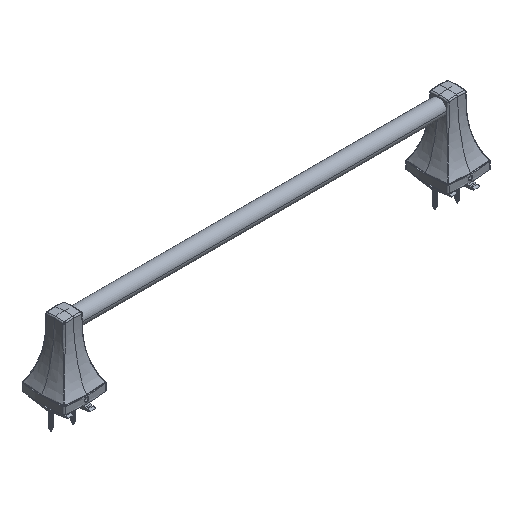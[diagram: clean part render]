
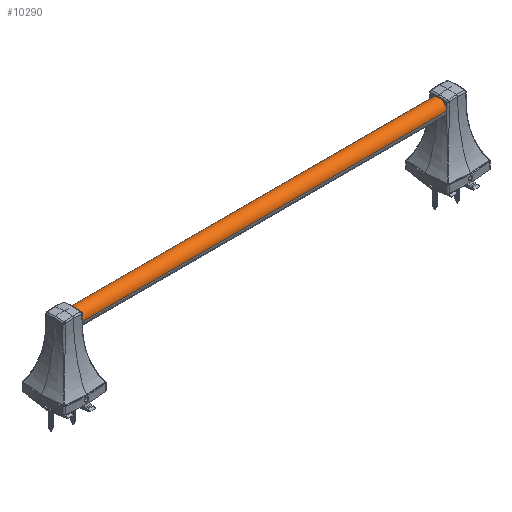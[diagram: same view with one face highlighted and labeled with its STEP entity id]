
A CAD part, isometric view. The second image highlights one B-rep face of the part: STEP entity #10290.
In plain terms, the highlighted cylindrical face has radius 9.5 mm (diameter 19 mm), a partial arc.
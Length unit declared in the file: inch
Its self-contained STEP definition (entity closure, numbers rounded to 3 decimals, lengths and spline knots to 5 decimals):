
#1421 = DIRECTION ( 'NONE',  ( 1., 0., 0. ) ) ;
#2076 = CARTESIAN_POINT ( 'NONE',  ( -9.27165, 0., 2.40157 ) ) ;
#2800 = VERTEX_POINT ( 'NONE', #47905 ) ;
#7485 = CARTESIAN_POINT ( 'NONE',  ( 9.27165, 0.37402, 2.40157 ) ) ;
#8583 = CIRCLE ( 'NONE', #18173, 0.37402 ) ;
#9105 = DIRECTION ( 'NONE',  ( 1., 0., 0. ) ) ;
#10290 = ADVANCED_FACE ( 'NONE', ( #39455 ), #59772, .T. ) ;
#10363 = VECTOR ( 'NONE', #54653, 39.37008 ) ;
#10773 = VERTEX_POINT ( 'NONE', #47982 ) ;
#10811 = ORIENTED_EDGE ( 'NONE', *, *, #55590, .T. ) ;
#11909 = VECTOR ( 'NONE', #63161, 39.37008 ) ;
#14793 = EDGE_CURVE ( 'NONE', #2800, #45400, #8583, .T. ) ;
#18173 = AXIS2_PLACEMENT_3D ( 'NONE', #2076, #1421, #22778 ) ;
#22494 = EDGE_CURVE ( 'NONE', #55734, #10773, #51644, .T. ) ;
#22555 = ORIENTED_EDGE ( 'NONE', *, *, #42084, .T. ) ;
#22778 = DIRECTION ( 'NONE',  ( 0., 1., 0. ) ) ;
#25054 = DIRECTION ( 'NONE',  ( 0., 1., 0. ) ) ;
#33124 = AXIS2_PLACEMENT_3D ( 'NONE', #54784, #9105, #49778 ) ;
#33159 = EDGE_LOOP ( 'NONE', ( #58835, #10811, #53036, #22555 ) ) ;
#39455 = FACE_OUTER_BOUND ( 'NONE', #33159, .T. ) ;
#40531 = CARTESIAN_POINT ( 'NONE',  ( 9.27165, 0.37402, 2.40157 ) ) ;
#40943 = LINE ( 'NONE', #61275, #10363 ) ;
#42084 = EDGE_CURVE ( 'NONE', #55734, #2800, #47510, .T. ) ;
#44200 = AXIS2_PLACEMENT_3D ( 'NONE', #50381, #45393, #25054 ) ;
#45393 = DIRECTION ( 'NONE',  ( 1., 0., 0. ) ) ;
#45400 = VERTEX_POINT ( 'NONE', #64709 ) ;
#47510 = LINE ( 'NONE', #7485, #11909 ) ;
#47905 = CARTESIAN_POINT ( 'NONE',  ( -9.27165, 0.37402, 2.40157 ) ) ;
#47982 = CARTESIAN_POINT ( 'NONE',  ( 9.27165, -0.37402, 2.40157 ) ) ;
#49778 = DIRECTION ( 'NONE',  ( 0., 1., 0. ) ) ;
#50381 = CARTESIAN_POINT ( 'NONE',  ( 9.27165, 0., 2.40157 ) ) ;
#51644 = CIRCLE ( 'NONE', #44200, 0.37402 ) ;
#53036 = ORIENTED_EDGE ( 'NONE', *, *, #22494, .F. ) ;
#54653 = DIRECTION ( 'NONE',  ( 1., 0., 0. ) ) ;
#54784 = CARTESIAN_POINT ( 'NONE',  ( -10.2083, 0., 2.40157 ) ) ;
#55590 = EDGE_CURVE ( 'NONE', #45400, #10773, #40943, .T. ) ;
#55734 = VERTEX_POINT ( 'NONE', #40531 ) ;
#58835 = ORIENTED_EDGE ( 'NONE', *, *, #14793, .T. ) ;
#59772 = CYLINDRICAL_SURFACE ( 'NONE', #33124, 0.37402 ) ;
#61275 = CARTESIAN_POINT ( 'NONE',  ( -9.27165, -0.37402, 2.40157 ) ) ;
#63161 = DIRECTION ( 'NONE',  ( -1., 0., 0. ) ) ;
#64709 = CARTESIAN_POINT ( 'NONE',  ( -9.27165, -0.37402, 2.40157 ) ) ;
